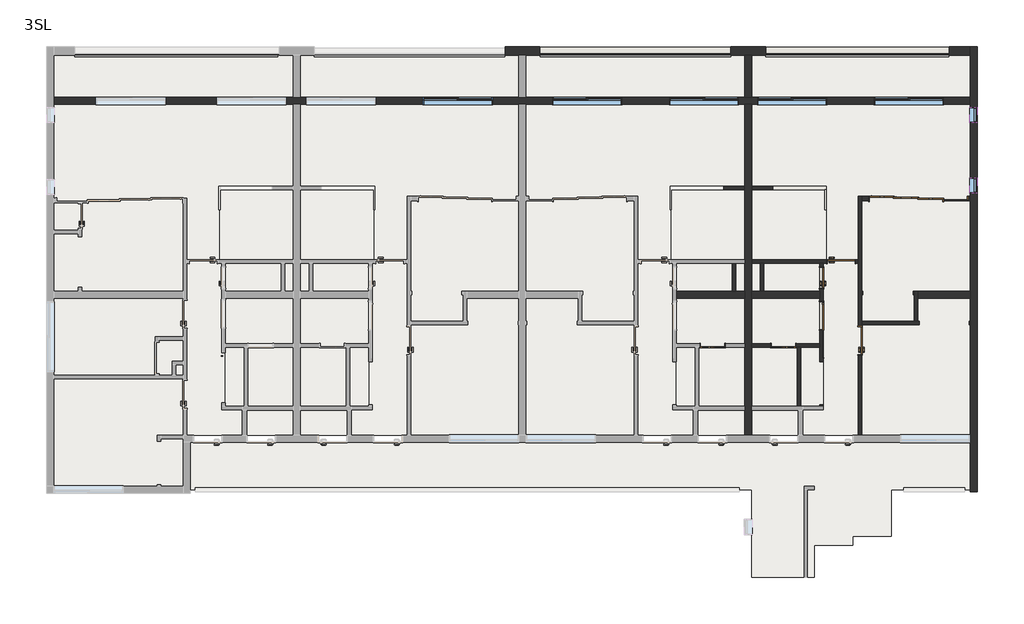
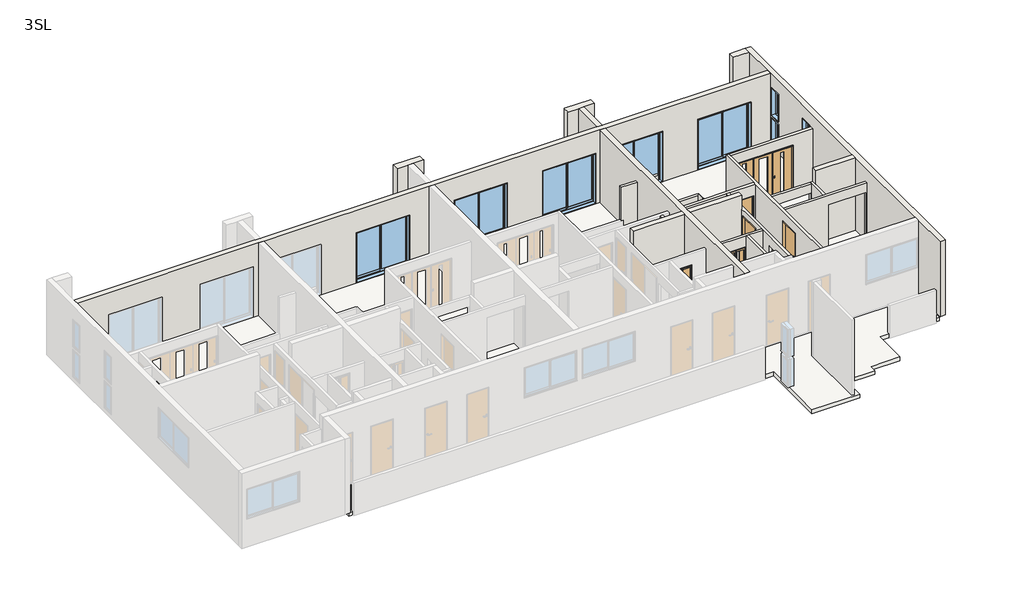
# One storey, part 3 of 3: 25 walls, 13 slabs, 9 windows, 7 doors, 4 railings, 2 plates.
"""IFC4 building model written with IfcOpenShell, lengths in millimetres."""

from ifc_helpers import new_model, si_unit, frame, origin, place, context, project, spatial, polyline, outline, extrude, faceted_brep, transform, mapped, element, save
from components import door_c7dcdbed, door_8f2de950, door_3b96e66a, door_6eb1cc95, door_aabc7979, door_3f60c47c, door_31a51f76, system_panel_37aab131, system_panel_3b8cd947, railing_c805cc73, railing_97926943, railing_8c28f024, railing_d567d05c, window_4c3e1407, window_5dc29a3f, window_ec430ee0, window_a2a98c4b, w0450_h1100_93ba837a, w0450_h1100_e5a89885

model = new_model("IFC4")

# Units and contexts
model_context = context("Model", 3, world=origin())
ifc_project = project(units=[si_unit("LENGTHUNIT", "METRE", prefix="MILLI")], contexts=[model_context])

# Site, building, storey
site = spatial("IfcSite", under=ifc_project)
building = spatial("IfcBuilding", under=site)
storey = spatial("IfcBuildingStorey", under=building, Name="3SL", Elevation=7000.0)

# Doors
placement = place(None, origin())
door_shape = door_c7dcdbed(model_context)
element("IfcDoor", 1, ObjectType="木製_片開き_フラッシュ : WD-2 w600h2000", at=placement, inside=storey, context=model_context, shape_type="MappedRepresentation", body=[
    mapped(door_shape, transform((11454.3805905, 3696.254513, 7210.0), x_axis=(0.0, 1.0, 0.0), y_axis=(-1.0, 0.0, 0.0), z_axis=(0.0, 0.0, 1.0))),
])
door_2_shape = door_8f2de950(model_context)
element("IfcDoor", 2, ObjectType="木製_片開き_フラッシュ : WD-1\u3000w800h2000", at=placement, inside=storey, context=model_context, shape_type="MappedRepresentation", body=[
    mapped(door_2_shape, transform((12554.3805905, 1900.2598658, 7060.0), x_axis=(0.0, 1.0, 0.0), y_axis=(-1.0, 0.0, 0.0), z_axis=(0.0, 0.0, 1.0))),
])
door_3_shape = door_3b96e66a(model_context)
element("IfcDoor", 3, ObjectType="木製_片開き_フラッシュ : WD-1\u3000w800h2000", at=placement, inside=storey, context=model_context, shape_type="MappedRepresentation", body=[
    mapped(door_3_shape, transform((12014.3805905, 4160.2598658, 7000.0), x_axis=(1.0, 0.0, 0.0), y_axis=(0.0, 1.0, 0.0), z_axis=(0.0, 0.0, 1.0))),
])
door_4_shape = door_6eb1cc95(model_context)
element("IfcDoor", 4, ObjectType="木製_折戸2枚_フラッシュ(UB) : UB-1 w600h2000", at=placement, inside=storey, context=model_context, shape_type="MappedRepresentation", body=[
    mapped(door_4_shape, transform((8344.3805905, 1760.2598658, 7000.0), x_axis=(1.0, 0.0, 0.0), y_axis=(0.0, 1.0, 0.0), z_axis=(0.0, 0.0, 1.0))),
])
door_5_shape = door_aabc7979(model_context)
element("IfcDoor", 5, ObjectType="木製_折戸2枚_フラッシュ(UB) : UB-1 w600h2000", at=placement, inside=storey, context=model_context, shape_type="MappedRepresentation", body=[
    mapped(door_5_shape, transform((10364.3805905, 1760.2598658, 7000.0), x_axis=(-1.0, 0.0, 0.0), y_axis=(0.0, -1.0, 0.0), z_axis=(0.0, 0.0, 1.0))),
])
door_6_shape = door_3f60c47c(model_context)
element("IfcDoor", 6, ObjectType="木製_片引き_フラッシュ : WD-4 w800h2000", at=placement, inside=storey, context=model_context, shape_type="MappedRepresentation", body=[
    mapped(door_6_shape, transform((11454.3805905, 2610.719009, 7210.0), x_axis=(0.0, -1.0, 0.0), y_axis=(1.0, 0.0, 0.0), z_axis=(0.0, 0.0, 1.0))),
])
door_7_shape = door_31a51f76(model_context)
element("IfcDoor", 7, ObjectType="木製_片引き3枚_フラッシュ2 : WD-9 w2100h2000", at=placement, inside=storey, context=model_context, shape_type="MappedRepresentation", body=[
    mapped(door_7_shape, transform((13879.9160944, 5960.2598658, 7060.0), x_axis=(1.0, 0.0, 0.0), y_axis=(0.0, 1.0, 0.0), z_axis=(0.0, 0.0, 1.0))),
])

# Plates
system_panel_shape = system_panel_37aab131(model_context)
element("IfcPlate", 8, ObjectType="システム パネル : System Panel", at=placement, inside=storey, context=model_context, shape_type="MappedRepresentation", body=[
    mapped(system_panel_shape, transform((6129.3805905, 10097.7598658, 7000.0), x_axis=(1.0, 0.0, 0.0), y_axis=(0.0, 1.0, 0.0), z_axis=(0.0, 0.0, 1.0))),
])
system_panel_2_shape = system_panel_3b8cd947(model_context)
element("IfcPlate", 9, ObjectType="システム パネル : System Panel", at=placement, inside=storey, context=model_context, shape_type="MappedRepresentation", body=[
    mapped(system_panel_2_shape, transform((12479.3805905, 10097.7598658, 7000.0), x_axis=(-1.0, 0.0, 0.0), y_axis=(0.0, -1.0, 0.0), z_axis=(0.0, 0.0, 1.0))),
])

# Railings
railing_shape = railing_c805cc73(model_context)
element("IfcRailing", 10, ObjectType="バルコニー手摺", at=placement, inside=storey, context=model_context, shape_type="MappedRepresentation", body=[
    mapped(railing_shape, transform((0.0, 0.0, 0.0), x_axis=(1.0, 0.0, 0.0), y_axis=(0.0, 1.0, 0.0), z_axis=(0.0, 0.0, 1.0))),
])
railing_2_shape = railing_97926943(model_context)
element("IfcRailing", 11, ObjectType="バルコニー手摺", at=placement, inside=storey, context=model_context, shape_type="MappedRepresentation", body=[
    mapped(railing_2_shape, transform((0.0, 0.0, 0.0), x_axis=(1.0, 0.0, 0.0), y_axis=(0.0, 1.0, 0.0), z_axis=(0.0, 0.0, 1.0))),
])
railing_3_shape = railing_8c28f024(model_context)
element("IfcRailing", 12, ObjectType="バルコニー手摺", at=placement, inside=storey, context=model_context, shape_type="MappedRepresentation", body=[
    mapped(railing_3_shape, transform((0.0, 0.0, 0.0), x_axis=(1.0, 0.0, 0.0), y_axis=(0.0, 1.0, 0.0), z_axis=(0.0, 0.0, 1.0))),
])
railing_4_shape = railing_d567d05c(model_context)
element("IfcRailing", 13, ObjectType="バルコニー手摺", at=placement, inside=storey, context=model_context, shape_type="MappedRepresentation", body=[
    mapped(railing_4_shape, transform((0.0, 0.0, 0.0), x_axis=(1.0, 0.0, 0.0), y_axis=(0.0, 1.0, 0.0), z_axis=(0.0, 0.0, 1.0))),
])

# Slabs
element("IfcSlab", 14, ObjectType="SCON150", at=placement, inside=storey, context=model_context, shape_type="SweptSolid", body=[
    extrude(outline(polyline([(-10495.6194095, 10159.9866207), (-3645.6194095, 10159.9866207), (-3645.6194095, 8860.2598658), (-10495.6194095, 8860.2598658), (-10495.6194095, 10159.9866207)])), frame((0.0, 0.0, 6750.0), z_axis=(0.0, 0.0, 1.0), x_axis=(1.0, 0.0, 0.0)), (0.0, 0.0, 1.0), 150.0),
])
element("IfcSlab", 15, ObjectType="SCON150", at=placement, inside=storey, context=model_context, shape_type="SweptSolid", body=[
    extrude(outline(polyline([(15704.3805905, 8860.2598658), (9454.3805905, 8860.2598658), (9454.3805905, 10159.9866207), (15704.3805905, 10159.9866207), (15704.3805905, 8860.2598658)])), frame((0.0, 0.0, 6750.0), z_axis=(0.0, 0.0, 1.0), x_axis=(1.0, 0.0, 0.0)), (0.0, 0.0, 1.0), 150.0),
])
element("IfcSlab", 16, ObjectType="SCON150+100", at=placement, inside=storey, context=model_context, shape_type="SweptSolid", body=[
    extrude(outline(polyline([(-10495.6194095, 8860.2598658), (-3645.6194095, 8860.2598658), (-3645.6194095, 6215.254513), (-5745.6194095, 6215.254513), (-5745.6194095, 4210.2598658), (-5595.6194095, 4210.2598658), (-5595.6194095, 30.2598658), (-3645.6194095, 30.2598658), (-3645.6194095, -809.7401342), (-6795.6194095, -809.7401342), (-6795.6194095, -2259.7401342), (-10495.6194095, -2259.7401342), (-10495.6194095, 8860.2598658)])), frame((0.0, 0.0, 6850.0), z_axis=(0.0, 0.0, 1.0), x_axis=(1.0, 0.0, 0.0)), (0.0, 0.0, 1.0), 250.0),
])
element("IfcSlab", 17, ObjectType="SCON150+210", at=placement, inside=storey, context=model_context, shape_type="SweptSolid", body=[
    extrude(outline(polyline([(-5745.6194095, 6215.254513), (-3645.6194095, 6215.254513), (-3645.6194095, 30.2598658), (-5595.6194095, 30.2598658), (-5595.6194095, 4210.2598658), (-5745.6194095, 4210.2598658), (-5745.6194095, 6215.254513)])), frame((0.0, 0.0, 6850.0), z_axis=(0.0, 0.0, 1.0), x_axis=(1.0, 0.0, 0.0)), (0.0, 0.0, 1.0), 360.0),
])
element("IfcSlab", 18, ObjectType="SCON150+100", at=placement, inside=storey, context=model_context, shape_type="SweptSolid", body=[
    extrude(outline(polyline([(2804.3805905, 8860.2598658), (2804.3805905, -809.7401342), (-3445.6194095, -809.7401342), (-3445.6194095, 30.2598658), (-1495.6194095, 30.2598658), (-1495.6194095, 4210.2598658), (-1345.6194095, 4210.2598658), (-1345.6194095, 6215.254513), (-3445.6194095, 6215.254513), (-3445.6194095, 8860.2598658), (2804.3805905, 8860.2598658)])), frame((0.0, 0.0, 6850.0), z_axis=(0.0, 0.0, 1.0), x_axis=(1.0, 0.0, 0.0)), (0.0, 0.0, 1.0), 250.0),
])
element("IfcSlab", 19, ObjectType="SCON150+210", at=placement, inside=storey, context=model_context, shape_type="SweptSolid", body=[
    extrude(outline(polyline([(-1345.6194095, 6215.254513), (-1345.6194095, 4210.2598658), (-1495.6194095, 4210.2598658), (-1495.6194095, 30.2598658), (-3445.6194095, 30.2598658), (-3445.6194095, 6215.254513), (-1345.6194095, 6215.254513)])), frame((0.0, 0.0, 6850.0), z_axis=(0.0, 0.0, 1.0), x_axis=(1.0, 0.0, 0.0)), (0.0, 0.0, 1.0), 360.0),
])
element("IfcSlab", 20, ObjectType="SCON150+100", at=placement, inside=storey, context=model_context, shape_type="SweptSolid", body=[
    extrude(outline(polyline([(3004.3805905, 8760.2598658), (9254.3805905, 8760.2598658), (9254.3805905, 6215.254513), (7154.3805905, 6215.254513), (7154.3805905, 4210.2598658), (7304.3805905, 4210.2598658), (7304.3805905, 30.2598658), (9254.3805905, 30.2598658), (9254.3805905, -809.7401342), (3004.3805905, -809.7401342), (3004.3805905, 8760.2598658)])), frame((0.0, 0.0, 6850.0), z_axis=(0.0, 0.0, 1.0), x_axis=(1.0, 0.0, 0.0)), (0.0, 0.0, 1.0), 250.0),
])
element("IfcSlab", 21, ObjectType="SCON150+210", at=placement, inside=storey, context=model_context, shape_type="SweptSolid", body=[
    extrude(outline(polyline([(7154.3805905, 6215.254513), (9254.3805905, 6215.254513), (9254.3805905, 30.2598658), (7304.3805905, 30.2598658), (7304.3805905, 4210.2598658), (7154.3805905, 4210.2598658), (7154.3805905, 6215.254513)])), frame((0.0, 0.0, 6850.0), z_axis=(0.0, 0.0, 1.0), x_axis=(1.0, 0.0, 0.0)), (0.0, 0.0, 1.0), 360.0),
])
element("IfcSlab", 22, ObjectType="SCON150+100", at=placement, inside=storey, context=model_context, shape_type="SweptSolid", body=[
    extrude(outline(polyline([(15704.3805905, -809.7401342), (9454.3805905, -809.7401342), (9454.3805905, 30.2598658), (11514.3805905, 30.2598658), (11514.3805905, 4210.2598658), (11583.8805905, 4210.2598658), (11583.8805905, 6215.254513), (9454.3805905, 6215.254513), (9454.3805905, 8760.2598658), (15704.3805905, 8760.2598658), (15704.3805905, -809.7401342)])), frame((0.0, 0.0, 6850.0), z_axis=(0.0, 0.0, 1.0), x_axis=(1.0, 0.0, 0.0)), (0.0, 0.0, 1.0), 250.0),
])
element("IfcSlab", 23, ObjectType="SCON150+210", at=placement, inside=storey, context=model_context, shape_type="SweptSolid", body=[
    extrude(outline(polyline([(11583.8805905, 6215.254513), (11583.8805905, 4210.2598658), (11504.3805905, 4210.2598658), (11504.3805905, 30.2598658), (9454.3805905, 30.2598658), (9454.3805905, 6215.254513), (11583.8805905, 6215.254513)])), frame((0.0, 0.0, 6850.0), z_axis=(0.0, 0.0, 1.0), x_axis=(1.0, 0.0, 0.0)), (0.0, 0.0, 1.0), 360.0),
])
element("IfcSlab", 24, ObjectType="SCON150", at=placement, inside=storey, context=model_context, shape_type="SweptSolid", body=[
    extrude(outline(polyline([(-6595.6194095, -1009.7401342), (15704.3805905, -1009.7401342), (15704.3805905, -2359.7401342), (13454.3805905, -2359.7401342), (13454.3805905, -3689.7401342), (12354.3805905, -3689.7401342), (12354.3805905, -3949.7401342), (11254.3805905, -3949.7401342), (11254.3805905, -4869.7401342), (9454.3805905, -4869.7401342), (9454.3805905, -2359.7401342), (-6595.6194095, -2359.7401342), (-6595.6194095, -1009.7401342)])), frame((0.0, 0.0, 6800.0), z_axis=(0.0, 0.0, 1.0), x_axis=(1.0, 0.0, 0.0)), (0.0, 0.0, 1.0), 150.0),
])
element("IfcSlab", 25, ObjectType="SCON150", at=placement, inside=storey, context=model_context, shape_type="SweptSolid", body=[
    extrude(outline(polyline([(3004.3805905, 10159.9866207), (9254.3805905, 10159.9866207), (9254.3805905, 8860.2598658), (3004.3805905, 8860.2598658), (3004.3805905, 10159.9866207)])), frame((0.0, 0.0, 6750.0), z_axis=(0.0, 0.0, 1.0), x_axis=(1.0, 0.0, 0.0)), (0.0, 0.0, 1.0), 150.0),
])
element("IfcSlab", 26, ObjectType="SCON150", at=placement, inside=storey, context=model_context, shape_type="SweptSolid", body=[
    extrude(outline(polyline([(2804.3805905, 10159.9866207), (2804.3805905, 8860.2598658), (-3445.6194095, 8860.2598658), (-3445.6194095, 10159.9866207), (2804.3805905, 10159.9866207)])), frame((0.0, 0.0, 6800.0), z_axis=(0.0, 0.0, 1.0), x_axis=(1.0, 0.0, 0.0)), (0.0, 0.0, 1.0), 150.0),
])

# Walls
element("IfcWall", 27, ObjectType="(F)30", at=placement, inside=storey, context=model_context, shape_type="Brep", body=[
    faceted_brep([(11553.8805905, 6215.254513, 7060.0), (11553.8805905, 5645.254513, 7060.0), (11553.8805905, 5645.254513, 8120.0), (11553.8805905, 6215.254513, 8120.0), (11583.8805905, 6215.254513, 7060.0), (11583.8805905, 6215.254513, 8060.0), (11583.8805905, 6215.254513, 8120.0), (11583.8805905, 5645.254513, 8120.0), (11583.8805905, 5645.254513, 7060.0)], [[[0, 1, 2, 3]], [[4, 5, 6, 7, 8]], [[1, 0, 4, 8]], [[2, 1, 8, 7]], [[3, 2, 7, 6]], [[0, 3, 6, 5, 4]]]),
])
element("IfcWall", 28, ObjectType="(L)100", at=placement, inside=storey, context=model_context, shape_type="SweptSolid", body=[
    extrude(outline(polyline([(9254.3805905, 6215.254513), (8654.3805905, 6215.254513), (8654.3805905, 6315.254513), (9254.3805905, 6315.254513), (9254.3805905, 6215.254513)])), frame((0.0, 0.0, 7000.0), z_axis=(0.0, 0.0, 1.0), x_axis=(1.0, 0.0, 0.0)), (0.0, 0.0, 1.0), 2400.0),
])
element("IfcWall", 29, ObjectType="(L)100", at=placement, inside=storey, context=model_context, shape_type="SweptSolid", body=[
    extrude(outline(polyline([(8904.3805905, 3310.2598658), (8904.3805905, 4110.2598658), (9004.3805905, 4110.2598658), (9004.3805905, 3310.2598658), (8904.3805905, 3310.2598658)])), frame((0.0, 0.0, 7000.0), z_axis=(0.0, 0.0, 1.0), x_axis=(1.0, 0.0, 0.0)), (0.0, 0.0, 1.0), 2460.0),
])
element("IfcWall", 30, ObjectType="(L)100", at=placement, inside=storey, context=model_context, shape_type="Brep", body=[
    faceted_brep([(12504.3805905, 1480.2598658, 9080.0), (12504.3805905, 1480.2598658, 7060.0), (12504.3805905, -809.7401342, 7060.0), (12504.3805905, -809.7401342, 9460.0), (12504.3805905, 4110.2598658, 9460.0), (12504.3805905, 4210.2598658, 9460.0), (12504.3805905, 6022.7598658, 9460.0), (12504.3805905, 6022.7598658, 7060.0), (12504.3805905, 2320.2598658, 7060.0), (12504.3805905, 2320.2598658, 9080.0), (12604.3805905, -809.7401342, 7060.0), (12604.3805905, 1480.2598658, 7060.0), (12604.3805905, 1480.2598658, 9080.0), (12604.3805905, 2320.2598658, 9080.0), (12604.3805905, 2320.2598658, 7060.0), (12604.3805905, 2360.2598658, 7060.0), (12604.3805905, 2460.2598658, 7060.0), (12604.3805905, 5897.7598658, 7060.0), (12604.3805905, 6022.7598658, 7060.0), (12604.3805905, 6022.7598658, 9460.0), (12604.3805905, 5897.7598658, 9460.0), (12604.3805905, 3310.2598658, 9460.0), (12604.3805905, 3210.2598658, 9460.0), (12604.3805905, 2460.2598658, 9460.0), (12604.3805905, 2360.2598658, 9460.0), (12604.3805905, -809.7401342, 9460.0)], [[[0, 1, 2, 3, 4, 5, 6, 7, 8, 9]], [[10, 11, 12, 13, 14, 15, 16, 17, 18, 19, 20, 21, 22, 23, 24, 25]], [[2, 1, 11, 10]], [[8, 7, 18, 17, 16, 15, 14]], [[6, 5, 4, 3, 25, 24, 23, 22, 21, 20, 19]], [[7, 6, 19, 18]], [[3, 2, 10, 25]], [[14, 13, 9, 8]], [[12, 11, 1, 0]], [[13, 12, 0, 9]]]),
])
element("IfcWall", 31, ObjectType="(L)100", at=placement, inside=storey, context=model_context, shape_type="Brep", body=[
    faceted_brep([(15704.3805905, 2460.2598658, 7060.0), (15684.3805905, 2460.2598658, 7060.0), (15684.3805905, 2460.2598658, 9080.0), (14244.3805905, 2460.2598658, 9080.0), (14244.3805905, 2460.2598658, 7060.0), (12604.3805905, 2460.2598658, 7060.0), (12604.3805905, 2460.2598658, 9460.0), (14104.3805905, 2460.2598658, 9460.0), (14204.3805905, 2460.2598658, 9460.0), (15704.3805905, 2460.2598658, 9460.0), (15684.3805905, 2360.2598658, 9080.0), (15684.3805905, 2360.2598658, 7060.0), (15704.3805905, 2360.2598658, 7060.0), (15704.3805905, 2360.2598658, 9460.0), (12604.3805905, 2360.2598658, 9460.0), (12604.3805905, 2360.2598658, 7060.0), (14244.3805905, 2360.2598658, 7060.0), (14244.3805905, 2360.2598658, 9080.0)], [[[0, 1, 2, 3, 4, 5, 6, 7, 8, 9]], [[10, 11, 12, 13, 14, 15, 16, 17]], [[12, 11, 1, 0]], [[16, 15, 5, 4]], [[9, 8, 7, 6, 14, 13]], [[0, 9, 13, 12]], [[6, 5, 15, 14]], [[4, 3, 17, 16]], [[2, 1, 11, 10]], [[3, 2, 10, 17]]]),
])
element("IfcWall", 32, ObjectType="(L)100", at=placement, inside=storey, context=model_context, shape_type="Brep", body=[
    faceted_brep([(14104.3805905, 3310.2598658, 7000.0), (14104.3805905, 3210.2598658, 7000.0), (14104.3805905, 2460.2598658, 7000.0), (14104.3805905, 2460.2598658, 9460.0), (14104.3805905, 3210.2598658, 9460.0), (14104.3805905, 3310.2598658, 9460.0), (14204.3805905, 3310.2598658, 7000.0), (14204.3805905, 3310.2598658, 9460.0), (14204.3805905, 2460.2598658, 9460.0), (14204.3805905, 2460.2598658, 7000.0), (14204.3805905, 3110.2598658, 7000.0)], [[[0, 1, 2, 3, 4, 5]], [[6, 7, 8, 9, 10]], [[2, 1, 0, 6, 10, 9]], [[5, 4, 3, 8, 7]], [[0, 5, 7, 6]], [[3, 2, 9, 8]]]),
])
element("IfcWall", 33, ObjectType="(L)100", at=placement, inside=storey, context=model_context, shape_type="Brep", body=[
    faceted_brep([(11504.3805905, 4110.2598658, 9460.0), (11504.3805905, 30.2598658, 9460.0), (11504.3805905, 30.2598658, 7060.0), (11504.3805905, 60.2598658, 7060.0), (11504.3805905, 60.2598658, 9080.0), (11504.3805905, 1300.2598658, 9080.0), (11504.3805905, 1300.2598658, 7060.0), (11504.3805905, 4110.2598658, 7060.0), (11504.3805905, 1396.254513, 9230.0), (11504.3805905, 3036.254513, 9230.0), (11504.3805905, 3036.254513, 7210.0), (11504.3805905, 1396.254513, 7210.0), (11504.3805905, 4016.254513, 9230.0), (11504.3805905, 4016.254513, 7210.0), (11504.3805905, 3376.254513, 7210.0), (11504.3805905, 3376.254513, 9230.0), (11404.3805905, 30.2598658, 9460.0), (11404.3805905, 1710.2598658, 9460.0), (11404.3805905, 1810.2598658, 9460.0), (11404.3805905, 4110.2598658, 9460.0), (11404.3805905, 4110.2598658, 7060.0), (11404.3805905, 1300.2598658, 7060.0), (11404.3805905, 1300.2598658, 9080.0), (11404.3805905, 60.2598658, 9080.0), (11404.3805905, 60.2598658, 7060.0), (11404.3805905, 30.2598658, 7060.0), (11404.3805905, 3036.254513, 9230.0), (11404.3805905, 2196.254513, 9230.0), (11404.3805905, 2196.254513, 7210.0), (11404.3805905, 3036.254513, 7210.0), (11404.3805905, 4016.254513, 7210.0), (11404.3805905, 4016.254513, 9230.0), (11404.3805905, 3376.254513, 9230.0), (11404.3805905, 3376.254513, 7210.0), (11474.3805905, 1396.254513, 9230.0), (11474.3805905, 2196.254513, 9230.0), (11474.3805905, 2196.254513, 7210.0), (11474.3805905, 1396.254513, 7210.0)], [[[0, 1, 2, 3, 4, 5, 6, 7], [8, 9, 10, 11], [12, 13, 14, 15]], [[16, 17, 18, 19, 20, 21, 22, 23, 24, 25], [26, 27, 28, 29], [30, 31, 32, 33]], [[20, 7, 6, 21]], [[2, 25, 24, 3]], [[1, 0, 19, 18, 17, 16]], [[0, 7, 20, 19]], [[2, 1, 16, 25]], [[5, 22, 21, 6]], [[23, 4, 3, 24]], [[22, 5, 4, 23]], [[34, 35, 27, 26, 9, 8]], [[9, 26, 29, 10]], [[36, 37, 11, 10, 29, 28]], [[35, 36, 28, 27]], [[35, 34, 37, 36]], [[37, 34, 8, 11]], [[12, 31, 30, 13]], [[13, 30, 33, 14]], [[14, 33, 32, 15]], [[31, 12, 15, 32]]]),
])
element("IfcWall", 34, ObjectType="(L)100", at=placement, inside=storey, context=model_context, shape_type="SweptSolid", body=[
    extrude(outline(polyline([(9454.3805905, 6315.254513), (10054.3805905, 6315.254513), (10054.3805905, 6215.254513), (9454.3805905, 6215.254513), (9454.3805905, 6315.254513)])), frame((0.0, 0.0, 7000.0), z_axis=(0.0, 0.0, 1.0), x_axis=(1.0, 0.0, 0.0)), (0.0, 0.0, 1.0), 2400.0),
])
element("IfcWall", 35, ObjectType="(L)100", at=placement, inside=storey, context=model_context, shape_type="Brep", body=[
    faceted_brep([(9979.3805905, 6215.254513, 7060.0), (11553.8805905, 6215.254513, 7060.0), (11583.8805905, 6215.254513, 7060.0), (11583.8805905, 6215.254513, 8060.0), (9979.3805905, 6215.254513, 8060.0), (9979.3805905, 6315.254513, 7060.0), (9979.3805905, 6315.254513, 8060.0), (11583.8805905, 6315.254513, 8060.0), (11583.8805905, 6315.254513, 7060.0)], [[[0, 1, 2, 3, 4]], [[5, 6, 7, 8]], [[2, 1, 0, 5, 8]], [[4, 3, 7, 6]], [[0, 4, 6, 5]], [[3, 2, 8, 7]]]),
])
element("IfcWall", 36, ObjectType="(L)100", at=placement, inside=storey, context=model_context, shape_type="SweptSolid", body=[
    extrude(outline(polyline([(9704.3805905, 3310.2598658), (9704.3805905, 4110.2598658), (9804.3805905, 4110.2598658), (9804.3805905, 3310.2598658), (9704.3805905, 3310.2598658)])), frame((0.0, 0.0, 7000.0), z_axis=(0.0, 0.0, 1.0), x_axis=(1.0, 0.0, 0.0)), (0.0, 0.0, 1.0), 2460.0),
])
element("IfcWall", 37, ObjectType="(L)100", at=placement, inside=storey, context=model_context, shape_type="Brep", body=[
    faceted_brep([(10734.3805905, 1710.2598658, 9020.0), (10734.3805905, 1710.2598658, 7000.0), (10764.3805905, 1710.2598658, 7000.0), (10864.3805905, 1710.2598658, 7000.0), (11404.3805905, 1710.2598658, 7000.0), (11404.3805905, 1710.2598658, 9460.0), (10864.3805905, 1710.2598658, 9460.0), (10764.3805905, 1710.2598658, 9460.0), (9454.3805905, 1710.2598658, 9460.0), (9454.3805905, 1710.2598658, 7000.0), (9994.3805905, 1710.2598658, 7000.0), (9994.3805905, 1710.2598658, 9020.0), (11404.3805905, 1810.2598658, 7000.0), (10734.3805905, 1810.2598658, 7000.0), (10734.3805905, 1810.2598658, 9020.0), (9994.3805905, 1810.2598658, 9020.0), (9994.3805905, 1810.2598658, 7000.0), (9454.3805905, 1810.2598658, 7000.0), (9454.3805905, 1810.2598658, 9460.0), (11404.3805905, 1810.2598658, 9460.0)], [[[0, 1, 2, 3, 4, 5, 6, 7, 8, 9, 10, 11]], [[12, 13, 14, 15, 16, 17, 18, 19]], [[4, 3, 2, 1, 13, 12]], [[10, 9, 17, 16]], [[8, 7, 6, 5, 19, 18]], [[9, 8, 18, 17]], [[5, 4, 12, 19]], [[16, 15, 11, 10]], [[14, 13, 1, 0]], [[15, 14, 0, 11]]]),
])
element("IfcWall", 38, ObjectType="(L)100", at=placement, inside=storey, context=model_context, shape_type="Brep", body=[
    faceted_brep([(9454.3805905, 4110.2598658, 7000.0), (9704.3805905, 4110.2598658, 7000.0), (9804.3805905, 4110.2598658, 7000.0), (11594.3805905, 4110.2598658, 7000.0), (11594.3805905, 4110.2598658, 9020.0), (12434.3805905, 4110.2598658, 9020.0), (12434.3805905, 4110.2598658, 7000.0), (12504.3805905, 4110.2598658, 7000.0), (12504.3805905, 4110.2598658, 9460.0), (11504.3805905, 4110.2598658, 9460.0), (11404.3805905, 4110.2598658, 9460.0), (9804.3805905, 4110.2598658, 9460.0), (9704.3805905, 4110.2598658, 9460.0), (9454.3805905, 4110.2598658, 9460.0), (11594.3805905, 4210.2598658, 9020.0), (11594.3805905, 4210.2598658, 7000.0), (9454.3805905, 4210.2598658, 7000.0), (9454.3805905, 4210.2598658, 9460.0), (12504.3805905, 4210.2598658, 9460.0), (12504.3805905, 4210.2598658, 7000.0), (12434.3805905, 4210.2598658, 7000.0), (12434.3805905, 4210.2598658, 9020.0)], [[[0, 1, 2, 3, 4, 5, 6, 7, 8, 9, 10, 11, 12, 13]], [[14, 15, 16, 17, 18, 19, 20, 21]], [[16, 15, 3, 2, 1, 0]], [[20, 19, 7, 6]], [[13, 12, 11, 10, 9, 8, 18, 17]], [[0, 13, 17, 16]], [[8, 7, 19, 18]], [[6, 5, 21, 20]], [[4, 3, 15, 14]], [[5, 4, 14, 21]]]),
])
element("IfcWall", 39, ObjectType="(L)100", at=placement, inside=storey, context=model_context, shape_type="SweptSolid", body=[
    extrude(outline(polyline([(7000.0, 12604.3805905), (7000.0, 14104.3805905), (9460.0, 14104.3805905), (9460.0, 12604.3805905), (7000.0, 12604.3805905)]), holes=[polyline([(7060.0, 14074.3805905), (7060.0, 12634.3805905), (9080.0, 12634.3805905), (9080.0, 14074.3805905), (7060.0, 14074.3805905)])]), frame((0.0, 3210.2598658, 0.0), z_axis=(0.0, 1.0, 0.0), x_axis=(0.0, 0.0, 1.0)), (0.0, 0.0, 1.0), 100.0),
])
element("IfcWall", 40, ObjectType="(L)100", at=placement, inside=storey, context=model_context, shape_type="SweptSolid", body=[
    extrude(outline(polyline([(10764.3805905, 30.2598658), (10764.3805905, 1710.2598658), (10864.3805905, 1710.2598658), (10864.3805905, 30.2598658), (10764.3805905, 30.2598658)])), frame((0.0, 0.0, 7000.0), z_axis=(0.0, 0.0, 1.0), x_axis=(1.0, 0.0, 0.0)), (0.0, 0.0, 1.0), 2460.0),
])
element("IfcWall", 41, ObjectType="(L1)125", at=placement, inside=storey, context=model_context, shape_type="Brep", body=[
    faceted_brep([(15704.3805905, 5897.7598658, 9460.0), (12604.3805905, 5897.7598658, 9460.0), (12604.3805905, 5897.7598658, 7060.0), (12804.3805905, 5897.7598658, 7060.0), (12804.3805905, 5897.7598658, 9080.0), (14944.3805905, 5897.7598658, 9080.0), (14944.3805905, 5897.7598658, 7060.0), (15704.3805905, 5897.7598658, 7060.0), (12604.3805905, 6022.7598658, 9460.0), (15704.3805905, 6022.7598658, 9460.0), (15704.3805905, 6022.7598658, 7060.0), (15644.3805905, 6022.7598658, 7060.0), (15644.3805905, 6022.7598658, 9080.0), (12804.3805905, 6022.7598658, 9080.0), (12804.3805905, 6022.7598658, 7060.0), (12604.3805905, 6022.7598658, 7060.0), (14944.3805905, 5932.7598658, 7060.0), (15644.3805905, 5932.7598658, 7060.0), (15644.3805905, 5932.7598658, 9080.0), (14944.3805905, 5932.7598658, 9080.0)], [[[0, 1, 2, 3, 4, 5, 6, 7]], [[8, 9, 10, 11, 12, 13, 14, 15]], [[10, 7, 6, 16, 17, 11]], [[2, 15, 14, 3]], [[1, 0, 9, 8]], [[0, 7, 10, 9]], [[2, 1, 8, 15]], [[18, 19, 5, 4, 13, 12]], [[13, 4, 3, 14]], [[19, 16, 6, 5]], [[19, 18, 17, 16]], [[17, 18, 12, 11]]]),
])
element("IfcWall", 42, ObjectType="(R)200", at=placement, inside=storey, context=model_context, shape_type="Brep", body=[
    faceted_brep([(15704.3805905, 8860.2598658, 7000.0), (9454.3805905, 8860.2598658, 7000.0), (9254.3805905, 8860.2598658, 7000.0), (3004.3805905, 8860.2598658, 7000.0), (2804.3805905, 8860.2598658, 7000.0), (-3445.6194095, 8860.2598658, 7000.0), (-3645.6194095, 8860.2598658, 7000.0), (-10495.6194095, 8860.2598658, 7000.0), (-10495.6194095, 8860.2598658, 10000.0), (-3645.6194095, 8860.2598658, 10000.0), (-3445.6194095, 8860.2598658, 10000.0), (2804.3805905, 8860.2598658, 10000.0), (3004.3805905, 8860.2598658, 10000.0), (9254.3805905, 8860.2598658, 10000.0), (9454.3805905, 8860.2598658, 10000.0), (15704.3805905, 8860.2598658, 10000.0), (14954.3805905, 8860.2598658, 7120.0), (14954.3805905, 8860.2598658, 9120.0), (12954.3805905, 8860.2598658, 9120.0), (12954.3805905, 8860.2598658, 7120.0), (11614.3805905, 8860.2598658, 7120.0), (11614.3805905, 8860.2598658, 9120.0), (9614.3805905, 8860.2598658, 9120.0), (9614.3805905, 8860.2598658, 7120.0), (5754.3805905, 8860.2598658, 7120.0), (5754.3805905, 8860.2598658, 9120.0), (3754.3805905, 8860.2598658, 9120.0), (3754.3805905, 8860.2598658, 7120.0), (7094.3805905, 8860.2598658, 7120.0), (9094.3805905, 8860.2598658, 7120.0), (9094.3805905, 8860.2598658, 9120.0), (7094.3805905, 8860.2598658, 9120.0), (54.3805905, 8860.2598658, 7120.0), (2054.3805905, 8860.2598658, 7120.0), (2054.3805905, 8860.2598658, 9120.0), (54.3805905, 8860.2598658, 9120.0), (-9294.6785744, 8860.2598658, 7120.0), (-7294.6785744, 8860.2598658, 7120.0), (-7294.6785744, 8860.2598658, 9120.0), (-9294.6785744, 8860.2598658, 9120.0), (-1285.6194095, 8860.2598658, 7120.0), (-1285.6194095, 8860.2598658, 9120.0), (-3285.6194095, 8860.2598658, 9120.0), (-3285.6194095, 8860.2598658, 7120.0), (-5845.6194095, 8860.2598658, 7120.0), (-3845.6194095, 8860.2598658, 7120.0), (-3845.6194095, 8860.2598658, 9120.0), (-5845.6194095, 8860.2598658, 9120.0), (15704.3805905, 8660.2598658, 7000.0), (15704.3805905, 8660.2598658, 10000.0), (9454.3805905, 8660.2598658, 10000.0), (9254.3805905, 8660.2598658, 10000.0), (3004.3805905, 8660.2598658, 10000.0), (2804.3805905, 8660.2598658, 10000.0), (-3445.6194095, 8660.2598658, 10000.0), (-3645.6194095, 8660.2598658, 10000.0), (-10495.6194095, 8660.2598658, 10000.0), (-10495.6194095, 8660.2598658, 7000.0), (-3645.6194095, 8660.2598658, 7000.0), (-3445.6194095, 8660.2598658, 7000.0), (2804.3805905, 8660.2598658, 7000.0), (3004.3805905, 8660.2598658, 7000.0), (9254.3805905, 8660.2598658, 7000.0), (9454.3805905, 8660.2598658, 7000.0), (14954.3805905, 8660.2598658, 7120.0), (12954.3805905, 8660.2598658, 7120.0), (12954.3805905, 8660.2598658, 9120.0), (14954.3805905, 8660.2598658, 9120.0), (11614.3805905, 8660.2598658, 7120.0), (9614.3805905, 8660.2598658, 7120.0), (9614.3805905, 8660.2598658, 9120.0), (11614.3805905, 8660.2598658, 9120.0), (5754.3805905, 8660.2598658, 7120.0), (3754.3805905, 8660.2598658, 7120.0), (3754.3805905, 8660.2598658, 9120.0), (5754.3805905, 8660.2598658, 9120.0), (7094.3805905, 8660.2598658, 7120.0), (7094.3805905, 8660.2598658, 9120.0), (9094.3805905, 8660.2598658, 9120.0), (9094.3805905, 8660.2598658, 7120.0), (54.3805905, 8660.2598658, 7120.0), (54.3805905, 8660.2598658, 9120.0), (2054.3805905, 8660.2598658, 9120.0), (2054.3805905, 8660.2598658, 7120.0), (-9294.6785744, 8660.2598658, 7120.0), (-9294.6785744, 8660.2598658, 9120.0), (-7294.6785744, 8660.2598658, 9120.0), (-7294.6785744, 8660.2598658, 7120.0), (-1285.6194095, 8660.2598658, 7120.0), (-3285.6194095, 8660.2598658, 7120.0), (-3285.6194095, 8660.2598658, 9120.0), (-1285.6194095, 8660.2598658, 9120.0), (-5845.6194095, 8660.2598658, 7120.0), (-5845.6194095, 8660.2598658, 9120.0), (-3845.6194095, 8660.2598658, 9120.0), (-3845.6194095, 8660.2598658, 7120.0)], [[[0, 1, 2, 3, 4, 5, 6, 7, 8, 9, 10, 11, 12, 13, 14, 15], [16, 17, 18, 19], [20, 21, 22, 23], [24, 25, 26, 27], [28, 29, 30, 31], [32, 33, 34, 35], [36, 37, 38, 39], [40, 41, 42, 43], [44, 45, 46, 47]], [[48, 49, 50, 51, 52, 53, 54, 55, 56, 57, 58, 59, 60, 61, 62, 63], [64, 65, 66, 67], [68, 69, 70, 71], [72, 73, 74, 75], [76, 77, 78, 79], [80, 81, 82, 83], [84, 85, 86, 87], [88, 89, 90, 91], [92, 93, 94, 95]], [[7, 6, 5, 4, 3, 2, 1, 0, 48, 63, 62, 61, 60, 59, 58, 57]], [[15, 14, 13, 12, 11, 10, 9, 8, 56, 55, 54, 53, 52, 51, 50, 49]], [[0, 15, 49, 48]], [[8, 7, 57, 56]], [[17, 16, 64, 67]], [[18, 17, 67, 66]], [[19, 18, 66, 65]], [[16, 19, 65, 64]], [[21, 20, 68, 71]], [[22, 21, 71, 70]], [[23, 22, 70, 69]], [[20, 23, 69, 68]], [[25, 24, 72, 75]], [[26, 25, 75, 74]], [[27, 26, 74, 73]], [[24, 27, 73, 72]], [[77, 76, 28, 31]], [[78, 77, 31, 30]], [[79, 78, 30, 29]], [[76, 79, 29, 28]], [[81, 80, 32, 35]], [[82, 81, 35, 34]], [[83, 82, 34, 33]], [[80, 83, 33, 32]], [[85, 84, 36, 39]], [[86, 85, 39, 38]], [[87, 86, 38, 37]], [[84, 87, 37, 36]], [[41, 40, 88, 91]], [[42, 41, 91, 90]], [[43, 42, 90, 89]], [[40, 43, 89, 88]], [[93, 92, 44, 47]], [[94, 93, 47, 46]], [[95, 94, 46, 45]], [[92, 95, 45, 44]]]),
])
element("IfcWall", 43, ObjectType="(R)200", at=placement, inside=storey, context=model_context, shape_type="Brep", body=[
    faceted_brep([(15704.3805905, 10309.9866207, 7000.0), (15704.3805905, 10059.9866207, 7000.0), (15704.3805905, 8860.2598658, 7000.0), (15704.3805905, 8660.2598658, 7000.0), (15704.3805905, 3310.2598658, 7000.0), (15704.3805905, 3110.2598658, 7000.0), (15704.3805905, -809.7401342, 7000.0), (15704.3805905, -1009.7401342, 7000.0), (15704.3805905, -2419.7401342, 7000.0), (15704.3805905, -2419.7401342, 10000.0), (15704.3805905, -1009.7401342, 10000.0), (15704.3805905, -809.7401342, 10000.0), (15704.3805905, 3110.2598658, 10000.0), (15704.3805905, 3310.2598658, 10000.0), (15704.3805905, 8660.2598658, 10000.0), (15704.3805905, 8860.2598658, 10000.0), (15704.3805905, 10059.9866207, 10000.0), (15704.3805905, 10309.9866207, 10000.0), (15704.3805905, 6560.2491602, 8380.0), (15704.3805905, 6560.2491602, 9480.0), (15704.3805905, 6110.2491602, 9480.0), (15704.3805905, 6110.2491602, 8380.0), (15704.3805905, 6560.2491602, 7180.0), (15704.3805905, 6560.2491602, 8280.0), (15704.3805905, 6110.2491602, 8280.0), (15704.3805905, 6110.2491602, 7180.0), (15704.3805905, 8130.2598658, 8380.0), (15704.3805905, 8580.2598658, 8380.0), (15704.3805905, 8580.2598658, 9480.0), (15704.3805905, 8130.2598658, 9480.0), (15704.3805905, 8130.2598658, 7180.0), (15704.3805905, 8580.2598658, 7180.0), (15704.3805905, 8580.2598658, 8280.0), (15704.3805905, 8130.2598658, 8280.0), (15904.3805905, 10309.9866207, 7000.0), (15904.3805905, 10309.9866207, 10000.0), (15904.3805905, -2419.7401342, 10000.0), (15904.3805905, -2419.7401342, 7000.0), (15904.3805905, 6560.2491602, 8380.0), (15904.3805905, 6110.2491602, 8380.0), (15904.3805905, 6110.2491602, 9480.0), (15904.3805905, 6560.2491602, 9480.0), (15904.3805905, 6560.2491602, 7180.0), (15904.3805905, 6110.2491602, 7180.0), (15904.3805905, 6110.2491602, 8280.0), (15904.3805905, 6560.2491602, 8280.0), (15904.3805905, 8130.2598658, 8380.0), (15904.3805905, 8130.2598658, 9480.0), (15904.3805905, 8580.2598658, 9480.0), (15904.3805905, 8580.2598658, 8380.0), (15904.3805905, 8130.2598658, 7180.0), (15904.3805905, 8130.2598658, 8280.0), (15904.3805905, 8580.2598658, 8280.0), (15904.3805905, 8580.2598658, 7180.0)], [[[0, 1, 2, 3, 4, 5, 6, 7, 8, 9, 10, 11, 12, 13, 14, 15, 16, 17], [18, 19, 20, 21], [22, 23, 24, 25], [26, 27, 28, 29], [30, 31, 32, 33]], [[34, 35, 36, 37], [38, 39, 40, 41], [42, 43, 44, 45], [46, 47, 48, 49], [50, 51, 52, 53]], [[8, 7, 6, 5, 4, 3, 2, 1, 0, 34, 37]], [[9, 8, 37, 36]], [[17, 16, 15, 14, 13, 12, 11, 10, 9, 36, 35]], [[0, 17, 35, 34]], [[19, 18, 38, 41]], [[20, 19, 41, 40]], [[21, 20, 40, 39]], [[18, 21, 39, 38]], [[23, 22, 42, 45]], [[24, 23, 45, 44]], [[25, 24, 44, 43]], [[22, 25, 43, 42]], [[47, 46, 26, 29]], [[48, 47, 29, 28]], [[49, 48, 28, 27]], [[46, 49, 27, 26]], [[51, 50, 30, 33]], [[52, 51, 33, 32]], [[53, 52, 32, 31]], [[50, 53, 31, 30]]]),
])
element("IfcWall", 44, ObjectType="(R)200", at=placement, inside=storey, context=model_context, shape_type="Brep", body=[
    faceted_brep([(9454.3805905, -809.7401342, 10000.0), (9454.3805905, -809.7401342, 7000.0), (9454.3805905, -89.7401342, 7000.0), (9454.3805905, 30.2598658, 7000.0), (9454.3805905, 1710.2598658, 7000.0), (9454.3805905, 1810.2598658, 7000.0), (9454.3805905, 3110.2598658, 7000.0), (9454.3805905, 3310.2598658, 7000.0), (9454.3805905, 4110.2598658, 7000.0), (9454.3805905, 4210.2598658, 7000.0), (9454.3805905, 6215.254513, 7000.0), (9454.3805905, 6315.254513, 7000.0), (9454.3805905, 8660.2598658, 7000.0), (9454.3805905, 8660.2598658, 10000.0), (9454.3805905, 3310.2598658, 10000.0), (9454.3805905, 3110.2598658, 10000.0), (9254.3805905, -809.7401342, 7000.0), (9254.3805905, -809.7401342, 10000.0), (9254.3805905, 3110.2598658, 10000.0), (9254.3805905, 3310.2598658, 10000.0), (9254.3805905, 8660.2598658, 10000.0), (9254.3805905, 8660.2598658, 7000.0), (9254.3805905, 6315.254513, 7000.0), (9254.3805905, 6215.254513, 7000.0), (9254.3805905, 4210.2598658, 7000.0), (9254.3805905, 4110.2598658, 7000.0), (9254.3805905, 3310.2598658, 7000.0), (9254.3805905, 3110.2598658, 7000.0), (9254.3805905, 1810.2598658, 7000.0), (9254.3805905, 1710.2598658, 7000.0), (9254.3805905, 30.2598658, 7000.0), (9254.3805905, -89.7401342, 7000.0)], [[[0, 1, 2, 3, 4, 5, 6, 7, 8, 9, 10, 11, 12, 13, 14, 15]], [[16, 17, 18, 19, 20, 21, 22, 23, 24, 25, 26, 27, 28, 29, 30, 31]], [[1, 16, 31, 30, 29, 28, 27, 26, 25, 24, 23, 22, 21, 12, 11, 10, 9, 8, 7, 6, 5, 4, 3, 2]], [[17, 0, 15, 14, 13, 20, 19, 18]], [[1, 0, 17, 16]], [[13, 12, 21, 20]]]),
    faceted_brep([(9454.3805905, 10059.9866207, 7000.0), (9454.3805905, 10059.9866207, 10000.0), (9454.3805905, 8860.2598658, 10000.0), (9454.3805905, 8860.2598658, 7000.0), (9254.3805905, 10059.9866207, 10000.0), (9254.3805905, 10059.9866207, 7000.0), (9254.3805905, 8860.2598658, 7000.0), (9254.3805905, 8860.2598658, 10000.0)], [[[0, 1, 2, 3]], [[4, 5, 6, 7]], [[5, 0, 3, 6]], [[1, 4, 7, 2]], [[1, 0, 5, 4]], [[3, 2, 7, 6]]]),
])
element("IfcWall", 45, ObjectType="(R)200", at=placement, inside=storey, context=model_context, shape_type="Brep", body=[
    faceted_brep([(14204.3805905, 3110.2598658, 7000.0), (15704.3805905, 3110.2598658, 7000.0), (15704.3805905, 3110.2598658, 10000.0), (14204.3805905, 3110.2598658, 10000.0), (14204.3805905, 3310.2598658, 7000.0), (14204.3805905, 3310.2598658, 9460.0), (14204.3805905, 3310.2598658, 10000.0), (15704.3805905, 3310.2598658, 10000.0), (15704.3805905, 3310.2598658, 7000.0)], [[[0, 1, 2, 3]], [[4, 5, 6, 7, 8]], [[1, 0, 4, 8]], [[3, 2, 7, 6]], [[2, 1, 8, 7]], [[0, 3, 6, 5, 4]]]),
])
element("IfcWall", 46, ObjectType="(R)200", at=placement, inside=storey, context=model_context, shape_type="Brep", body=[
    faceted_brep([(7304.3805905, 3110.2598658, 10000.0), (7304.3805905, 3110.2598658, 7000.0), (9254.3805905, 3110.2598658, 7000.0), (9254.3805905, 3110.2598658, 10000.0), (7304.3805905, 3310.2598658, 7000.0), (7304.3805905, 3310.2598658, 10000.0), (9254.3805905, 3310.2598658, 10000.0), (9254.3805905, 3310.2598658, 7000.0), (9004.3805905, 3310.2598658, 7000.0), (8904.3805905, 3310.2598658, 7000.0)], [[[0, 1, 2, 3]], [[4, 5, 6, 7, 8, 9]], [[1, 4, 9, 8, 7, 2]], [[5, 0, 3, 6]], [[1, 0, 5, 4]], [[3, 2, 7, 6]]]),
    faceted_brep([(11404.3805905, 3110.2598658, 7000.0), (11404.3805905, 3110.2598658, 10000.0), (9454.3805905, 3110.2598658, 10000.0), (9454.3805905, 3110.2598658, 7000.0), (11404.3805905, 3310.2598658, 10000.0), (11404.3805905, 3310.2598658, 7000.0), (9804.3805905, 3310.2598658, 7000.0), (9704.3805905, 3310.2598658, 7000.0), (9454.3805905, 3310.2598658, 7000.0), (9454.3805905, 3310.2598658, 10000.0)], [[[0, 1, 2, 3]], [[4, 5, 6, 7, 8, 9]], [[5, 0, 3, 8, 7, 6]], [[1, 4, 9, 2]], [[1, 0, 5, 4]], [[3, 2, 9, 8]]]),
])
element("IfcWall", 47, ObjectType="(R)200", at=placement, inside=storey, context=model_context, shape_type="SweptSolid", body=[
    extrude(outline(polyline([(8854.3805905, 10084.9866207), (3404.3805905, 10084.9866207), (3404.3805905, 10284.9866207), (8854.3805905, 10284.9866207), (8854.3805905, 10084.9866207)])), frame((0.0, 0.0, 6250.0), z_axis=(0.0, 0.0, 1.0), x_axis=(1.0, 0.0, 0.0)), (0.0, 0.0, 1.0), 750.0),
])
element("IfcWall", 48, ObjectType="(R)200", at=placement, inside=storey, context=model_context, shape_type="SweptSolid", body=[
    extrude(outline(polyline([(15104.3805905, 10084.9866207), (9854.3805905, 10084.9866207), (9854.3805905, 10284.9866207), (15104.3805905, 10284.9866207), (15104.3805905, 10084.9866207)])), frame((0.0, 0.0, 6250.0), z_axis=(0.0, 0.0, 1.0), x_axis=(1.0, 0.0, 0.0)), (0.0, 0.0, 1.0), 750.0),
])
element("IfcWall", 49, ObjectType="(R)250", at=placement, inside=storey, context=model_context, shape_type="Brep", body=[
    faceted_brep([(2404.3805905, 10059.9866207, 7000.0), (2804.3805905, 10059.9866207, 7000.0), (3004.3805905, 10059.9866207, 7000.0), (3404.3805905, 10059.9866207, 7000.0), (3404.3805905, 10059.9866207, 10000.0), (3004.3805905, 10059.9866207, 10000.0), (2804.3805905, 10059.9866207, 10000.0), (2404.3805905, 10059.9866207, 10000.0), (2404.3805905, 10059.9866207, 9250.0), (2404.3805905, 10309.9866207, 7000.0), (2404.3805905, 10309.9866207, 10000.0), (3404.3805905, 10309.9866207, 10000.0), (3404.3805905, 10309.9866207, 7000.0), (3404.3805905, 10284.9866207, 10000.0), (3404.3805905, 10084.9866207, 10000.0), (2404.3805905, 10259.9866207, 10000.0)], [[[0, 1, 2, 3, 4, 5, 6, 7, 8]], [[9, 10, 11, 12]], [[3, 2, 1, 0, 9, 12]], [[4, 3, 12, 11, 13, 14]], [[7, 6, 5, 4, 14, 13, 11, 10, 15]], [[0, 8, 7, 15, 10, 9]]]),
])
element("IfcWall", 50, ObjectType="(R)250", at=placement, inside=storey, context=model_context, shape_type="Brep", body=[
    faceted_brep([(8854.3805905, 10059.9866207, 7000.0), (9254.3805905, 10059.9866207, 7000.0), (9454.3805905, 10059.9866207, 7000.0), (9854.3805905, 10059.9866207, 7000.0), (9854.3805905, 10059.9866207, 10000.0), (9454.3805905, 10059.9866207, 10000.0), (9254.3805905, 10059.9866207, 10000.0), (8854.3805905, 10059.9866207, 10000.0), (8854.3805905, 10309.9866207, 7000.0), (8854.3805905, 10309.9866207, 10000.0), (9854.3805905, 10309.9866207, 10000.0), (9854.3805905, 10309.9866207, 7000.0), (9854.3805905, 10284.9866207, 10000.0), (9854.3805905, 10084.9866207, 10000.0), (8854.3805905, 10284.9866207, 10000.0), (8854.3805905, 10084.9866207, 10000.0)], [[[0, 1, 2, 3, 4, 5, 6, 7]], [[8, 9, 10, 11]], [[3, 2, 1, 0, 8, 11]], [[4, 3, 11, 10, 12, 13]], [[7, 6, 5, 4, 13, 12, 10, 9, 14, 15]], [[0, 7, 15, 14, 9, 8]]]),
])
element("IfcWall", 51, ObjectType="(R)250", at=placement, inside=storey, context=model_context, shape_type="Brep", body=[
    faceted_brep([(15104.3805905, 10059.9866207, 7000.0), (15704.3805905, 10059.9866207, 7000.0), (15704.3805905, 10059.9866207, 10000.0), (15104.3805905, 10059.9866207, 10000.0), (15104.3805905, 10309.9866207, 7000.0), (15104.3805905, 10309.9866207, 10000.0), (15704.3805905, 10309.9866207, 10000.0), (15704.3805905, 10309.9866207, 7000.0), (15104.3805905, 10284.9866207, 10000.0), (15104.3805905, 10084.9866207, 10000.0)], [[[0, 1, 2, 3]], [[4, 5, 6, 7]], [[1, 0, 4, 7]], [[3, 2, 6, 5, 8, 9]], [[0, 3, 9, 8, 5, 4]], [[2, 1, 7, 6]]]),
])

# Windows
window_shape = window_4c3e1407(model_context)
element("IfcWindow", 52, ObjectType="窓-開き-内付 : AW-1' w0450 h1100", at=placement, inside=storey, context=model_context, shape_type="MappedRepresentation", body=[
    mapped(window_shape, transform((15804.3805905, 6335.2491602, 7180.0), x_axis=(0.0, -1.0, 0.0), y_axis=(1.0, 0.0, 0.0), z_axis=(0.0, 0.0, 1.0))),
])
window_2_shape = window_5dc29a3f(model_context)
element("IfcWindow", 53, ObjectType="窓-開き-内付 : AW-1' w0450 h1100", at=placement, inside=storey, context=model_context, shape_type="MappedRepresentation", body=[
    mapped(window_2_shape, transform((15804.3805905, 8355.2598658, 7180.0), x_axis=(0.0, 1.0, 0.0), y_axis=(-1.0, 0.0, 0.0), z_axis=(0.0, 0.0, 1.0))),
])
window_3_shape = window_ec430ee0(model_context)
element("IfcWindow", 54, ObjectType="窓-引違掃出2枚-内付 : AW-3' w2000 h2000", at=placement, inside=storey, context=model_context, shape_type="MappedRepresentation", body=[
    mapped(window_3_shape, transform((13954.3805905, 8760.2598658, 7120.0), x_axis=(-1.0, 0.0, 0.0), y_axis=(0.0, -1.0, 0.0), z_axis=(0.0, 0.0, 1.0))),
])
window_4_shape = window_a2a98c4b(model_context)
element("IfcWindow", 55, ObjectType="窓-引違掃出2枚-内付 : AW-3 w2000 h2000", at=placement, inside=storey, context=model_context, shape_type="MappedRepresentation", body=[
    mapped(window_4_shape, transform((1054.3805905, 8760.2598658, 7120.0), x_axis=(1.0, 0.0, 0.0), y_axis=(0.0, 1.0, 0.0), z_axis=(0.0, 0.0, 1.0))),
])
element("IfcWindow", 56, ObjectType="窓-引違掃出2枚-内付 : AW-3 w2000 h2000", at=placement, inside=storey, context=model_context, shape_type="MappedRepresentation", body=[
    mapped(window_4_shape, transform((8094.3805905, 8760.2598658, 7120.0), x_axis=(1.0, 0.0, 0.0), y_axis=(0.0, 1.0, 0.0), z_axis=(0.0, 0.0, 1.0))),
])
element("IfcWindow", 57, ObjectType="窓-引違掃出2枚-内付 : AW-3 w2000 h2000", at=placement, inside=storey, context=model_context, shape_type="MappedRepresentation", body=[
    mapped(window_3_shape, transform((4754.3805905, 8760.2598658, 7120.0), x_axis=(-1.0, 0.0, 0.0), y_axis=(0.0, -1.0, 0.0), z_axis=(0.0, 0.0, 1.0))),
])
element("IfcWindow", 58, ObjectType="窓-引違掃出2枚-内付 : AW-3 w2000 h2000", at=placement, inside=storey, context=model_context, shape_type="MappedRepresentation", body=[
    mapped(window_3_shape, transform((10614.3805905, 8760.2598658, 7120.0), x_axis=(-1.0, 0.0, 0.0), y_axis=(0.0, -1.0, 0.0), z_axis=(0.0, 0.0, 1.0))),
])
w0450_h1100_shape = w0450_h1100_93ba837a(model_context)
element("IfcWindow", 59, ObjectType="窓-Fix-内付 : w0450 h1100", at=placement, inside=storey, context=model_context, shape_type="MappedRepresentation", body=[
    mapped(w0450_h1100_shape, transform((15804.3805905, 6335.2491602, 7120.0), x_axis=(0.0, -1.0, 0.0), y_axis=(1.0, 0.0, 0.0), z_axis=(0.0, 0.0, 1.0))),
])
w0450_h1100_2_shape = w0450_h1100_e5a89885(model_context)
element("IfcWindow", 60, ObjectType="窓-Fix-内付 : w0450 h1100", at=placement, inside=storey, context=model_context, shape_type="MappedRepresentation", body=[
    mapped(w0450_h1100_2_shape, transform((15804.3805905, 8355.2598658, 7120.0), x_axis=(0.0, 1.0, 0.0), y_axis=(-1.0, 0.0, 0.0), z_axis=(0.0, 0.0, 1.0))),
])

save(model, "model.ifc")
